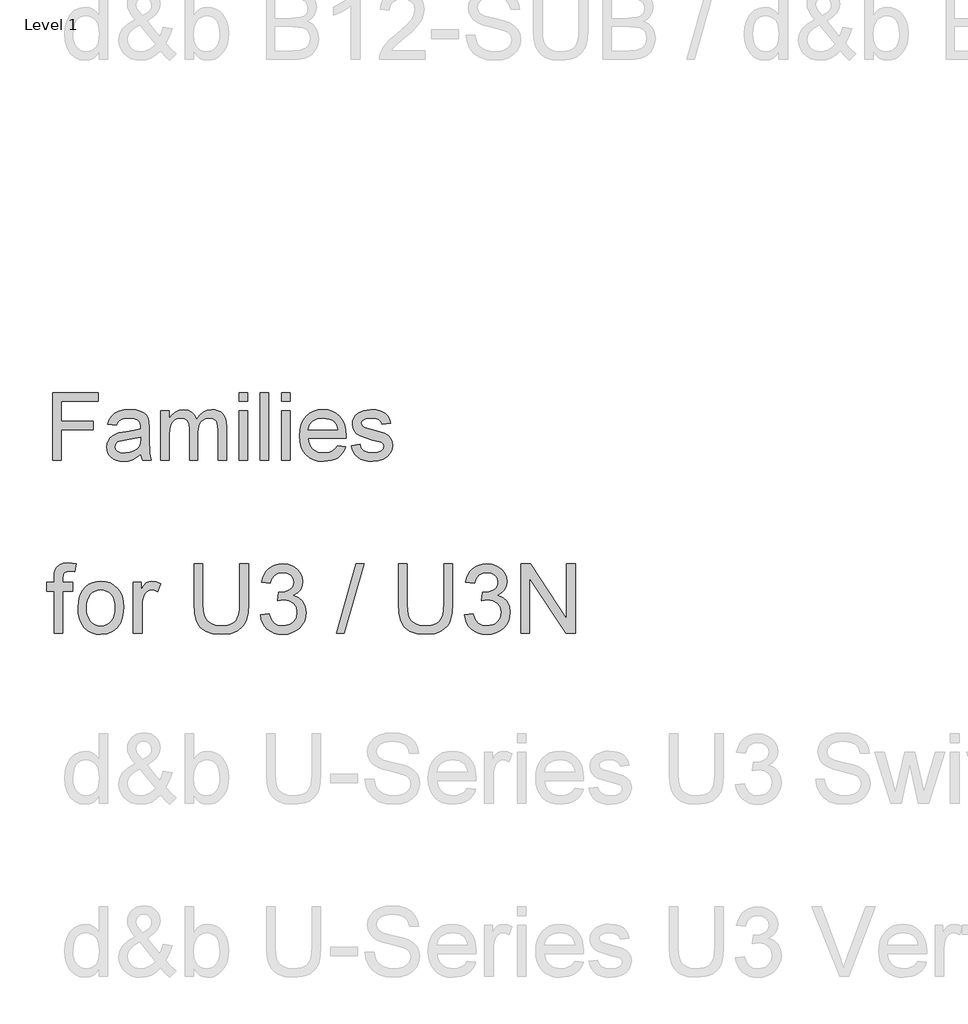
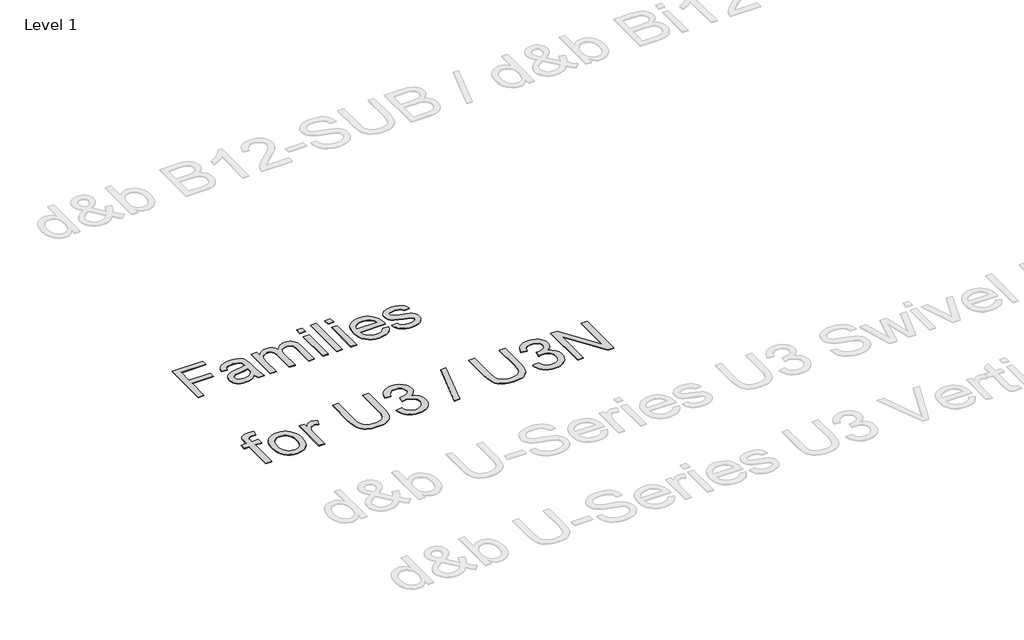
# One storey, part 16 of 29: 2 proxies.
"""IFC4 building model written with IfcOpenShell, lengths in millimetres."""

from ifc_helpers import new_model, si_unit, origin, origin_with_axes, place, context, project, spatial, polyline, outline, extrude, element, save

model = new_model("IFC4")

# Units and contexts
model_context = context("Model", 3, world=origin())
ifc_project = project(units=[si_unit("LENGTHUNIT", "METRE", prefix="MILLI")], contexts=[model_context])

# Site, building, storey
site = spatial("IfcSite", under=ifc_project)
building = spatial("IfcBuilding", under=site)
storey = spatial("IfcBuildingStorey", under=building, Name="Level 1", Elevation=0.0)

# Proxies
placement = place(None, origin())
element("IfcBuildingElementProxy", 1, Name="400mm Arial", ObjectType="400mm Arial", at=placement, inside=storey, context=model_context, shape_type="SweptSolid", body=[
    extrude(outline(polyline([(-21056.720891, 6146.5012301), (-21056.720891, 6538.2588058), (-20793.5087698, 6538.2588058), (-20793.5087698, 6489.2891088), (-21007.7511941, 6489.2891088), (-21007.7511941, 6372.9860785), (-20824.1148304, 6372.9860785), (-20824.1148304, 6324.0163816), (-21007.7511941, 6324.0163816), (-21007.7511941, 6146.5012301), (-21056.720891, 6146.5012301)])), origin_with_axes(), (0.0, 0.0, 1.0), 5.0),
    extrude(outline(polyline([(-20548.660285, 6183.2285028), (-20572.0571836, 6163.1671865), (-20596.1475009, 6150.0400558), (-20621.4811893, 6142.7950274), (-20648.6082016, 6140.3800179), (-20670.4120309, 6141.8326103), (-20689.5318522, 6146.1903873), (-20705.9676654, 6153.4533489), (-20719.7194706, 6163.6214952), (-20730.5780466, 6176.0492296), (-20738.3341723, 6190.0909554), (-20742.9878477, 6205.7466728), (-20744.5390729, 6223.0163816), (-20742.1957963, 6243.3168077), (-20735.1659668, 6261.752177), (-20724.3223352, 6277.533427), (-20710.5376524, 6289.8714952), (-20676.2493001, 6305.939677), (-20633.879035, 6313.3042604), (-20583.8094327, 6321.0514195), (-20548.9472168, 6330.1375937), (-20548.660285, 6341.0410028), (-20552.0317338, 6362.8956429), (-20562.1460804, 6377.1944119), (-20584.7658721, 6387.8108892), (-20616.2805501, 6391.3497149), (-20645.4519516, 6388.9944829), (-20665.8241107, 6381.9287869), (-20679.7163929, 6368.8614337), (-20689.4481638, 6348.5012301), (-20738.4178607, 6354.6224422), (-20729.9175056, 6381.4027452), (-20717.2327282, 6402.4444119), (-20699.1799346, 6418.5365047), (-20674.5755312, 6430.4680861), (-20644.4835568, 6437.8565804), (-20609.9680501, 6440.3194119), (-20576.8632916, 6438.1435123), (-20550.6209857, 6431.6158134), (-20530.8346458, 6421.8003541), (-20517.097785, 6409.7611732), (-20507.9876997, 6394.8765852), (-20502.0816865, 6376.5249043), (-20499.690588, 6333.6764195), (-20499.690588, 6272.7512301), (-20497.2038456, 6187.675946), (-20487.4481638, 6146.5012301), (-20536.4178607, 6146.5012301), (-20544.2606638, 6163.5258513), (-20548.660285, 6183.2285028)]), holes=[polyline([(-20548.660285, 6281.1678967), (-20581.5618001, 6273.0142509), (-20627.6621789, 6266.1517982), (-20669.7933342, 6258.2133513), (-20680.7565208, 6252.7855577), (-20688.8743001, 6245.3014195), (-20693.8956069, 6236.3348001), (-20695.5693759, 6226.4595634), (-20691.9229507, 6211.8977736), (-20680.9836751, 6199.9661922), (-20662.990659, 6192.0038342), (-20638.1830122, 6189.3497149), (-20611.8809289, 6192.2788106), (-20588.6394516, 6201.0660975), (-20569.7975956, 6214.0138958), (-20556.6943759, 6229.4245255), (-20550.8840066, 6245.3014195), (-20548.9472168, 6267.2995255), (-20548.660285, 6281.1678967)])]), origin_with_axes(), (0.0, 0.0, 1.0), 5.0),
    extrude(outline(polyline([(-20432.3572547, 6146.5012301), (-20432.3572547, 6434.1981998), (-20383.3875577, 6434.1981998), (-20383.3875577, 6386.8544498), (-20368.658391, 6408.6014905), (-20349.720891, 6425.6380672), (-20327.2206543, 6436.6490757), (-20301.8032774, 6440.3194119), (-20274.5686657, 6436.5773427), (-20252.7379365, 6425.3511354), (-20236.4306448, 6407.3820302), (-20225.7663456, 6383.4112679), (-20207.9167954, 6408.3085809), (-20187.5565918, 6426.0923759), (-20164.6857348, 6436.7626529), (-20139.3042244, 6440.3194119), (-20119.7002057, 6438.8399197), (-20102.4932632, 6434.4014431), (-20087.683397, 6427.0039822), (-20075.2706069, 6416.6475369), (-20065.4581365, 6403.2125523), (-20058.4492291, 6386.5794734), (-20054.2438846, 6366.7483004), (-20052.8421032, 6343.7190331), (-20052.8421032, 6146.5012301), (-20101.8118001, 6146.5012301), (-20101.8118001, 6322.6773664), (-20106.3548872, 6363.5651505), (-20112.7391202, 6374.8391799), (-20122.8056448, 6383.6981998), (-20135.7534431, 6389.4368361), (-20150.7814971, 6391.3497149), (-20177.3107348, 6386.447963), (-20198.9382206, 6371.7427073), (-20207.3279874, 6360.4627002), (-20213.320678, 6346.2296865), (-20218.1148304, 6308.9046392), (-20218.1148304, 6146.5012301), (-20267.0845274, 6146.5012301), (-20267.0845274, 6328.129071), (-20269.9179791, 6355.8179914), (-20278.4183342, 6375.5684649), (-20293.3746552, 6387.4044024), (-20315.5760047, 6391.3497149), (-20334.4417717, 6388.7195066), (-20351.8250577, 6380.8288816), (-20366.1716486, 6367.8691278), (-20375.9273304, 6350.0315331), (-20381.5225009, 6325.2836638), (-20383.3875577, 6291.5930861), (-20383.3875577, 6146.5012301), (-20432.3572547, 6146.5012301)])), origin_with_axes(), (0.0, 0.0, 1.0), 5.0),
    extrude(outline(polyline([(-19979.3875577, 6489.2891088), (-19979.3875577, 6538.2588058), (-19930.4178607, 6538.2588058), (-19930.4178607, 6489.2891088), (-19979.3875577, 6489.2891088)])), origin_with_axes(), (0.0, 0.0, 1.0), 5.0),
    extrude(outline(polyline([(-19979.3875577, 6146.5012301), (-19979.3875577, 6434.1981998), (-19930.4178607, 6434.1981998), (-19930.4178607, 6146.5012301), (-19979.3875577, 6146.5012301)])), origin_with_axes(), (0.0, 0.0, 1.0), 5.0),
    extrude(outline(polyline([(-19856.9633153, 6146.5012301), (-19856.9633153, 6538.2588058), (-19807.9936183, 6538.2588058), (-19807.9936183, 6146.5012301), (-19856.9633153, 6146.5012301)])), origin_with_axes(), (0.0, 0.0, 1.0), 5.0),
    extrude(outline(polyline([(-19734.5390729, 6489.2891088), (-19734.5390729, 6538.2588058), (-19685.5693759, 6538.2588058), (-19685.5693759, 6489.2891088), (-19734.5390729, 6489.2891088)])), origin_with_axes(), (0.0, 0.0, 1.0), 5.0),
    extrude(outline(polyline([(-19734.5390729, 6146.5012301), (-19734.5390729, 6434.1981998), (-19685.5693759, 6434.1981998), (-19685.5693759, 6146.5012301), (-19734.5390729, 6146.5012301)])), origin_with_axes(), (0.0, 0.0, 1.0), 5.0),
    extrude(outline(polyline([(-19410.6886941, 6232.1981998), (-19362.6754365, 6226.0769876), (-19370.0370309, 6206.8465781), (-19379.975034, 6189.8996676), (-19392.4894457, 6175.2362561), (-19407.580266, 6162.8563437), (-19425.0920736, 6153.0229512), (-19444.8694469, 6145.9990994), (-19491.220891, 6140.3800179), (-19521.605775, 6142.803994), (-19548.6789876, 6150.0759223), (-19572.4405288, 6162.1958027), (-19592.8903986, 6179.1636354), (-19609.3351784, 6200.5071782), (-19621.0814497, 6225.7541893), (-19628.1292125, 6254.9046687), (-19630.4784668, 6287.9586164), (-19628.1053015, 6322.1333915), (-19620.9858058, 6352.2552547), (-19609.1199796, 6378.3242059), (-19592.5078229, 6400.3402452), (-19572.1117528, 6417.8311306), (-19548.8941865, 6430.3246202), (-19522.855124, 6437.820714), (-19493.9945653, 6440.3194119), (-19466.0635461, 6437.8266917), (-19440.8045795, 6430.3485312), (-19418.2176654, 6417.8849303), (-19398.3028039, 6400.4358892), (-19382.0463231, 6378.4676718), (-19370.4345511, 6352.4465426), (-19363.4674879, 6322.3725014), (-19361.1451335, 6288.2455482), (-19361.4320653, 6275.0466846), (-19581.5087698, 6275.0466846), (-19578.6723292, 6255.5054322), (-19573.0323257, 6238.3911448), (-19564.5887592, 6223.7038224), (-19553.3416297, 6211.4434649), (-19524.9234242, 6194.8731524), (-19490.2644516, 6189.3497149), (-19464.2014782, 6191.9081903), (-19442.2511941, 6199.5836164), (-19424.4135994, 6212.854213), (-19410.6886941, 6232.1981998)]), holes=[polyline([(-19581.5087698, 6324.0163816), (-19410.1148304, 6324.0163816), (-19416.7381732, 6349.8880672), (-19429.721838, 6368.3951695), (-19443.076123, 6378.4377831), (-19458.2715539, 6385.6110785), (-19494.1858532, 6391.3497149), (-19527.1949677, 6386.7707613), (-19554.4893569, 6373.0339005), (-19573.4627234, 6351.6216136), (-19581.5087698, 6324.0163816)])]), origin_with_axes(), (0.0, 0.0, 1.0), 5.0),
    extrude(outline(polyline([(-19330.5390729, 6232.1981998), (-19281.5693759, 6238.3194119), (-19273.8461278, 6217.3733892), (-19258.9017622, 6201.9747149), (-19236.6406354, 6192.5059649), (-19206.9671032, 6189.3497149), (-19177.6522357, 6192.2429441), (-19157.0409668, 6200.9226316), (-19144.8463645, 6213.4998096), (-19140.7814971, 6228.0855104), (-19144.8702755, 6240.5670445), (-19157.1366107, 6250.0836164), (-19207.5409668, 6264.0476316), (-19281.2824441, 6288.0064384), (-19299.9449677, 6300.0456193), (-19313.4666297, 6315.9822907), (-19321.680053, 6334.8002357), (-19324.4178607, 6355.4832376), (-19322.2180501, 6374.4566041), (-19315.6186183, 6391.9714005), (-19305.2173399, 6407.3342083), (-19291.6119895, 6419.8516088), (-19260.4798872, 6434.3416657), (-19218.3487319, 6440.3194119), (-19186.4753891, 6437.9163579), (-19158.7625577, 6430.707196), (-19136.4775198, 6419.3973001), (-19120.8875577, 6404.6920445), (-19110.5580122, 6385.5034791), (-19104.0542244, 6360.7436543), (-19153.0239213, 6354.6224422), (-19159.2049109, 6370.0330719), (-19171.4353797, 6381.6418551), (-19189.8348825, 6388.9227499), (-19214.5229744, 6391.3497149), (-19242.6422925, 6389.0303494), (-19261.3885047, 6382.0722528), (-19271.933249, 6372.0296392), (-19275.4481638, 6360.4567225), (-19269.6138835, 6346.2057755), (-19251.345891, 6335.3980104), (-19209.1669138, 6324.972821), (-19137.2904933, 6301.9226316), (-19118.3051713, 6290.8996676), (-19103.9107585, 6275.8118361), (-19094.8365397, 6256.6113153), (-19091.8118001, 6233.2502831), (-19095.3625814, 6209.1001884), (-19106.0149251, 6186.3847528), (-19123.3623446, 6166.8853446), (-19146.9983532, 6152.3833323), (-19175.5480691, 6143.3808465), (-19207.6366107, 6140.3800179), (-19233.9924938, 6141.8266325), (-19257.0127944, 6146.1664763), (-19276.6975127, 6153.3995492), (-19293.0466486, 6163.5258513), (-19306.4009336, 6176.4975606), (-19317.1010994, 6192.2668551), (-19325.1471458, 6210.8337348), (-19330.5390729, 6232.1981998)])), origin_with_axes(), (0.0, 0.0, 1.0), 5.0),
])
element("IfcBuildingElementProxy", 2, Name="400mm Arial", ObjectType="400mm Arial", at=placement, inside=storey, context=model_context, shape_type="SweptSolid", body=[
    extrude(outline(polyline([(-21049.3412208, 5146.5012301), (-21049.3412208, 5391.363486), (-21093.2908565, 5391.363486), (-21093.2908565, 5441.5916411), (-21049.3412208, 5441.5916411), (-21049.3412208, 5471.3165063), (-21048.0168456, 5495.9155491), (-21044.0437201, 5513.2060029), (-21033.9392279, 5529.9078454), (-21018.3410313, 5543.1270718), (-20996.5133663, 5551.7355105), (-20967.7204688, 5554.60499), (-20921.9068977, 5549.1112856), (-20929.2645376, 5502.0223902), (-20958.2045879, 5504.376835), (-20977.2976634, 5502.2921703), (-20989.8424395, 5496.0381764), (-20996.7954092, 5484.0942743), (-20999.1130657, 5464.9398851), (-20999.1130657, 5441.5916411), (-20942.6063913, 5441.5916411), (-20942.6063913, 5391.363486), (-20999.1130657, 5391.363486), (-20999.1130657, 5146.5012301), (-21049.3412208, 5146.5012301)])), origin_with_axes(), (0.0, 0.0, 1.0), 5.0),
    extrude(outline(polyline([(-20911.2137944, 5294.0464356), (-20908.497599, 5332.2632435), (-20900.3490128, 5365.1948135), (-20886.7680358, 5392.8411454), (-20867.754668, 5415.2022393), (-20848.6125415, 5429.4944548), (-20827.4838522, 5439.7031802), (-20804.3686002, 5445.8284154), (-20779.2667854, 5447.8701605), (-20751.5560741, 5445.3838914), (-20726.5002446, 5437.9250839), (-20704.0992967, 5425.4937382), (-20684.3532307, 5408.0898541), (-20668.2369336, 5386.3020429), (-20656.7252928, 5360.7189159), (-20649.8183084, 5331.3404729), (-20647.5159802, 5298.1667139), (-20651.5872076, 5247.4235241), (-20663.8008899, 5208.7959146), (-20683.8014077, 5179.868127), (-20711.2331418, 5158.224403), (-20743.8152238, 5144.7231337), (-20779.2667854, 5140.2227107), (-20807.3821669, 5142.6997828), (-20832.6709884, 5150.1309991), (-20855.1332499, 5162.5163596), (-20874.7689514, 5179.8558643), (-20890.7135702, 5201.8552076), (-20902.1025836, 5228.2200839), (-20908.9359917, 5258.9504933), (-20911.2137944, 5294.0464356)]), holes=[polyline([(-20860.9856393, 5294.1445375), (-20859.5325054, 5269.7815523), (-20855.1731038, 5248.6865856), (-20847.9074343, 5230.8596372), (-20837.7354972, 5216.3007073), (-20825.3623994, 5204.9914016), (-20811.4932482, 5196.9133261), (-20796.1280435, 5192.0664808), (-20779.2667854, 5190.4508657), (-20762.4913664, 5192.0756779), (-20747.1874754, 5196.9501143), (-20733.3551124, 5205.0741751), (-20720.9942774, 5216.4478601), (-20710.8223402, 5231.1508771), (-20703.5566708, 5249.262934), (-20699.1972692, 5270.7840308), (-20697.7441353, 5295.7141673), (-20699.2064662, 5319.3046002), (-20703.593459, 5339.847744), (-20710.9051137, 5357.3435985), (-20721.1414302, 5371.7921639), (-20733.5482505, 5383.1014696), (-20747.3714164, 5391.1795451), (-20762.6109281, 5396.0263903), (-20779.2667854, 5397.6420054), (-20796.1280435, 5396.0325217), (-20811.4932482, 5391.2040705), (-20825.3623994, 5383.1566519), (-20837.7354972, 5371.8902658), (-20847.9074343, 5357.3742554), (-20855.1731038, 5339.5779639), (-20859.5325054, 5318.5013912), (-20860.9856393, 5294.1445375)])]), origin_with_axes(), (0.0, 0.0, 1.0), 5.0),
    extrude(outline(polyline([(-20591.0093057, 5146.5012301), (-20591.0093057, 5441.5916411), (-20547.0596701, 5441.5916411), (-20547.0596701, 5397.936311), (-20530.8238113, 5423.2465923), (-20515.8632769, 5438.1580758), (-20500.8536915, 5445.4421393), (-20484.4706799, 5447.8701605), (-20459.4547043, 5443.9951368), (-20434.0463211, 5432.3700658), (-20450.8217401, 5387.3413096), (-20468.4800759, 5395.0668315), (-20486.1384117, 5397.6420054), (-20501.1357343, 5395.1649333), (-20514.5389017, 5387.733717), (-20525.3668951, 5375.9124423), (-20532.6386958, 5360.2651947), (-20538.745537, 5332.2080612), (-20540.7811507, 5301.6002792), (-20540.7811507, 5146.5012301), (-20591.0093057, 5146.5012301)])), origin_with_axes(), (0.0, 0.0, 1.0), 5.0),
    extrude(outline(polyline([(-19975.7144061, 5548.3264707), (-19925.486251, 5548.3264707), (-19925.486251, 5316.5117628), (-19928.8952908, 5262.224643), (-19939.1224103, 5220.4209856), (-19947.3077847, 5203.467757), (-19958.2277486, 5188.1699974), (-19988.2714449, 5162.540885), (-20007.4135713, 5152.7766838), (-20029.3270755, 5145.8022543), (-20081.468217, 5140.2227107), (-20132.4689242, 5145.078753), (-20173.242512, 5159.64688), (-20189.7972018, 5170.4472823), (-20203.8012431, 5183.4243196), (-20215.2546359, 5198.5779922), (-20224.1573802, 5215.9082998), (-20235.5985102, 5259.4777908), (-20239.4122202, 5316.5117628), (-20239.4122202, 5548.3264707), (-20189.1840652, 5548.3264707), (-20189.1840652, 5318.2775963), (-20186.706993, 5273.1384755), (-20179.2757767, 5241.7090904), (-20165.8112957, 5219.942739), (-20145.2344295, 5203.7927194), (-20118.4035693, 5193.7863292), (-20086.1771065, 5190.4508657), (-20058.4939864, 5192.1002034), (-20035.0905601, 5197.0482162), (-20015.9668277, 5205.2949043), (-20001.1227892, 5216.8402675), (-19990.0066216, 5233.0761263), (-19982.0665019, 5255.3943006), (-19977.30243, 5283.7947907), (-19975.7144061, 5318.2775963), (-19975.7144061, 5548.3264707)])), origin_with_axes(), (0.0, 0.0, 1.0), 5.0),
    extrude(outline(polyline([(-19856.4225378, 5253.2360596), (-19806.1943827, 5259.514579), (-19794.9494564, 5227.9503038), (-19778.4806057, 5206.6376735), (-19755.9784904, 5194.4975677), (-19726.6337699, 5190.4508657), (-19692.2000151, 5196.0181466), (-19677.9261937, 5202.9772477), (-19665.6144096, 5212.7199892), (-19648.6182614, 5237.637863), (-19642.9528787, 5267.8532375), (-19648.5692105, 5296.5357704), (-19665.4182059, 5319.7981753), (-19690.9246909, 5335.2124309), (-19722.5134915, 5340.3505161), (-19757.7320612, 5334.8568116), (-19752.1402549, 5385.0849667), (-19744.0959019, 5384.4963555), (-19714.0031547, 5388.101599), (-19687.0987181, 5398.9173297), (-19676.0254701, 5407.0965727), (-19668.1160072, 5417.2133276), (-19663.3703294, 5429.2675943), (-19661.7884369, 5443.2593728), (-19666.3746991, 5464.9521478), (-19680.1334857, 5482.5491699), (-19701.1272849, 5494.2110292), (-19727.4185848, 5498.0983156), (-19753.7589357, 5494.174241), (-19775.2922951, 5482.4020171), (-19791.013119, 5462.781644), (-19799.9158633, 5435.3131217), (-19850.1440184, 5441.5916411), (-19844.1904614, 5465.5714158), (-19835.3551622, 5486.6939737), (-19823.6381206, 5504.9593148), (-19809.0393368, 5520.367439), (-19792.0186632, 5532.5995154), (-19773.0359522, 5541.3367127), (-19752.0912039, 5546.5790312), (-19729.1844184, 5548.3264707), (-19697.6078805, 5544.8806426), (-19668.6065165, 5534.5431586), (-19644.1546266, 5518.2337235), (-19626.2265107, 5496.8720423), (-19615.226839, 5472.2607368), (-19611.5602818, 5446.2024288), (-19615.042898, 5421.9222171), (-19625.4907467, 5399.8983483), (-19642.756675, 5381.1363666), (-19666.6935301, 5366.641816), (-19635.2518823, 5353.9376244), (-19611.9526893, 5332.3061631), (-19597.531715, 5302.9246544), (-19592.7247236, 5266.9703207), (-19595.1282193, 5241.4883612), (-19602.3387064, 5218.0174899), (-19614.356185, 5196.5577069), (-19631.1806549, 5177.1090121), (-19651.6778134, 5160.9712552), (-19674.7133576, 5149.444286), (-19700.2872877, 5142.5281045), (-19728.3996035, 5140.2227107), (-19753.8079866, 5142.1908793), (-19776.9600268, 5148.0953854), (-19797.8557241, 5157.9362287), (-19816.4950786, 5171.7134095), (-19832.123932, 5188.6175871), (-19843.9881263, 5207.8394214), (-19852.0876616, 5229.3789122), (-19856.4225378, 5253.2360596)])), origin_with_axes(), (0.0, 0.0, 1.0), 5.0),
    extrude(outline(polyline([(-19416.9261809, 5146.5012301), (-19303.912832, 5548.3264707), (-19258.3935664, 5548.3264707), (-19371.5050172, 5146.5012301), (-19416.9261809, 5146.5012301)])), origin_with_axes(), (0.0, 0.0, 1.0), 5.0),
    extrude(outline(polyline([(-18795.3527618, 5548.3264707), (-18745.1246067, 5548.3264707), (-18745.1246067, 5316.5117628), (-18748.5336466, 5262.224643), (-18758.760766, 5220.4209856), (-18766.9461404, 5203.467757), (-18777.8661043, 5188.1699974), (-18807.9098006, 5162.540885), (-18827.0519271, 5152.7766838), (-18848.9654313, 5145.8022543), (-18901.1065727, 5140.2227107), (-18952.10728, 5145.078753), (-18992.8808678, 5159.64688), (-19009.4355576, 5170.4472823), (-19023.4395988, 5183.4243196), (-19034.8929916, 5198.5779922), (-19043.7957359, 5215.9082998), (-19055.236866, 5259.4777908), (-19059.050576, 5316.5117628), (-19059.050576, 5548.3264707), (-19008.8224209, 5548.3264707), (-19008.8224209, 5318.2775963), (-19006.3453488, 5273.1384755), (-18998.9141325, 5241.7090904), (-18985.4496515, 5219.942739), (-18964.8727852, 5203.7927194), (-18938.041925, 5193.7863292), (-18905.8154622, 5190.4508657), (-18878.1323421, 5192.1002034), (-18854.7289158, 5197.0482162), (-18835.6051835, 5205.2949043), (-18820.761145, 5216.8402675), (-18809.6449773, 5233.0761263), (-18801.7048576, 5255.3943006), (-18796.9407858, 5283.7947907), (-18795.3527618, 5318.2775963), (-18795.3527618, 5548.3264707)])), origin_with_axes(), (0.0, 0.0, 1.0), 5.0),
    extrude(outline(polyline([(-18676.0608935, 5253.2360596), (-18625.8327384, 5259.514579), (-18614.5878121, 5227.9503038), (-18598.1189615, 5206.6376735), (-18575.6168461, 5194.4975677), (-18546.2721256, 5190.4508657), (-18511.8383709, 5196.0181466), (-18497.5645495, 5202.9772477), (-18485.2527654, 5212.7199892), (-18468.2566172, 5237.637863), (-18462.5912345, 5267.8532375), (-18468.2075662, 5296.5357704), (-18485.0565616, 5319.7981753), (-18510.5630466, 5335.2124309), (-18542.1518473, 5340.3505161), (-18577.3704169, 5334.8568116), (-18571.7786106, 5385.0849667), (-18563.7342577, 5384.4963555), (-18533.6415105, 5388.101599), (-18506.7370739, 5398.9173297), (-18495.6638258, 5407.0965727), (-18487.7543629, 5417.2133276), (-18483.0086852, 5429.2675943), (-18481.4267926, 5443.2593728), (-18486.0130548, 5464.9521478), (-18499.7718414, 5482.5491699), (-18520.7656406, 5494.2110292), (-18547.0569405, 5498.0983156), (-18573.3972914, 5494.174241), (-18594.9306509, 5482.4020171), (-18610.6514748, 5462.781644), (-18619.5542191, 5435.3131217), (-18669.7823741, 5441.5916411), (-18663.8288172, 5465.5714158), (-18654.9935179, 5486.6939737), (-18643.2764764, 5504.9593148), (-18628.6776925, 5520.367439), (-18611.6570189, 5532.5995154), (-18592.6743079, 5541.3367127), (-18571.7295597, 5546.5790312), (-18548.8227741, 5548.3264707), (-18517.2462362, 5544.8806426), (-18488.2448723, 5534.5431586), (-18463.7929823, 5518.2337235), (-18445.8648664, 5496.8720423), (-18434.8651948, 5472.2607368), (-18431.1986375, 5446.2024288), (-18434.6812538, 5421.9222171), (-18445.1291024, 5399.8983483), (-18462.3950307, 5381.1363666), (-18486.3318859, 5366.641816), (-18454.890238, 5353.9376244), (-18431.591045, 5332.3061631), (-18417.1700708, 5302.9246544), (-18412.3630794, 5266.9703207), (-18414.7665751, 5241.4883612), (-18421.9770622, 5218.0174899), (-18433.9945407, 5196.5577069), (-18450.8190106, 5177.1090121), (-18471.3161691, 5160.9712552), (-18494.3517134, 5149.444286), (-18519.9256434, 5142.5281045), (-18548.0379592, 5140.2227107), (-18573.4463423, 5142.1908793), (-18596.5983826, 5148.0953854), (-18617.4940799, 5157.9362287), (-18636.1334343, 5171.7134095), (-18651.7622877, 5188.6175871), (-18663.6264821, 5207.8394214), (-18671.7260173, 5229.3789122), (-18676.0608935, 5253.2360596)])), origin_with_axes(), (0.0, 0.0, 1.0), 5.0),
    extrude(outline(polyline([(-18349.5778855, 5146.5012301), (-18349.5778855, 5548.3264707), (-18295.8180633, 5548.3264707), (-18085.8800714, 5229.9859175), (-18085.8800714, 5548.3264707), (-18035.6519163, 5548.3264707), (-18035.6519163, 5146.5012301), (-18089.4117385, 5146.5012301), (-18299.3497305, 5464.9398851), (-18299.3497305, 5146.5012301), (-18349.5778855, 5146.5012301)])), origin_with_axes(), (0.0, 0.0, 1.0), 5.0),
])

save(model, "model.ifc")
